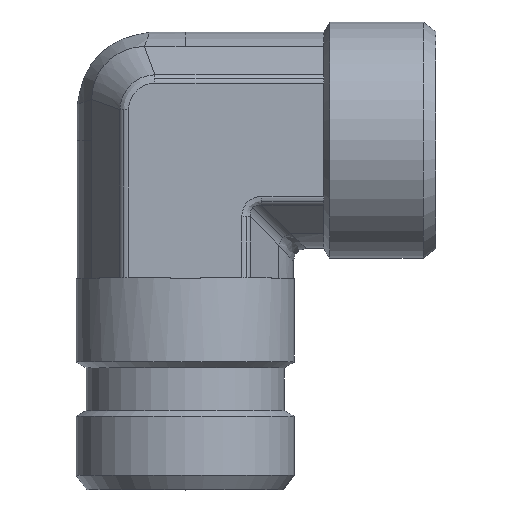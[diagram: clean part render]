
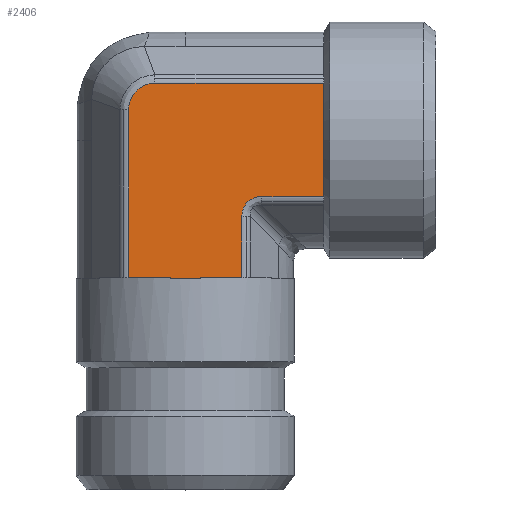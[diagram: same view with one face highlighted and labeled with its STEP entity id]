
A CAD part, top view. The second image highlights one B-rep face of the part: STEP entity #2406.
In plain terms, the highlighted planar face has unit normal (0, 0, 1) as drawn and (0, -1, 0) by its records, which use the part's own axes.
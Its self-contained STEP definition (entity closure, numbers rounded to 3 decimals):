
#361=CARTESIAN_POINT('',(7.119,-16.375,8.588));
#362=VERTEX_POINT('',#361);
#370=CARTESIAN_POINT('',(16.35,-16.375,8.588));
#371=VERTEX_POINT('',#370);
#372=CARTESIAN_POINT('',(7.119,-16.375,8.588));
#373=DIRECTION('',(1.0,0.0,0.0));
#374=VECTOR('',#373,9.231);
#375=LINE('',#372,#374);
#376=EDGE_CURVE('',#362,#371,#375,.T.);
#443=CARTESIAN_POINT('',(-13.088,-16.375,-4.612));
#444=VERTEX_POINT('',#443);
#452=CARTESIAN_POINT('',(-13.088,-16.375,21.0));
#453=VERTEX_POINT('',#452);
#454=CARTESIAN_POINT('',(-13.088,-16.375,-4.612));
#455=DIRECTION('',(0.0,0.0,1.0));
#456=VECTOR('',#455,25.612);
#457=LINE('',#454,#456);
#458=EDGE_CURVE('',#444,#453,#457,.T.);
#845=CARTESIAN_POINT('',(16.35,-16.375,2.295));
#846=VERTEX_POINT('',#845);
#854=CARTESIAN_POINT('',(16.5,-16.375,2.295));
#855=VERTEX_POINT('',#854);
#856=CARTESIAN_POINT('',(16.5,-16.375,2.295));
#857=DIRECTION('',(-1.0,0.0,0.));
#858=VECTOR('',#857,0.15);
#859=LINE('',#856,#858);
#860=EDGE_CURVE('',#855,#846,#859,.T.);
#862=CARTESIAN_POINT('',(16.5,-16.375,-2.295));
#863=VERTEX_POINT('',#862);
#871=CARTESIAN_POINT('',(16.35,-16.375,-2.295));
#872=VERTEX_POINT('',#871);
#873=CARTESIAN_POINT('',(16.35,-16.375,-2.295));
#874=DIRECTION('',(1.0,0.0,0.));
#875=VECTOR('',#874,0.15);
#876=LINE('',#873,#875);
#877=EDGE_CURVE('',#872,#863,#876,.T.);
#1674=CARTESIAN_POINT('',(-4.5,-16.375,21.0));
#1675=VERTEX_POINT('',#1674);
#1676=CARTESIAN_POINT('',(-4.5,-16.375,21.0));
#1677=DIRECTION('',(-1.0,0.0,0.0));
#1678=VECTOR('',#1677,8.588);
#1679=LINE('',#1676,#1678);
#1680=EDGE_CURVE('',#1675,#453,#1679,.T.);
#2098=CARTESIAN_POINT('',(16.35,-16.375,-8.588));
#2099=VERTEX_POINT('',#2098);
#2100=CARTESIAN_POINT('',(16.35,-16.375,-8.588));
#2101=DIRECTION('',(0.0,0.0,1.0));
#2102=VECTOR('',#2101,6.293);
#2103=LINE('',#2100,#2102);
#2104=EDGE_CURVE('',#2099,#872,#2103,.T.);
#2138=CARTESIAN_POINT('',(16.35,-16.375,2.295));
#2139=DIRECTION('',(0.0,0.0,1.0));
#2140=VECTOR('',#2139,6.293);
#2141=LINE('',#2138,#2140);
#2142=EDGE_CURVE('',#846,#371,#2141,.T.);
#2331=CARTESIAN_POINT('',(-9.112,-16.375,-8.588));
#2332=VERTEX_POINT('',#2331);
#2333=CARTESIAN_POINT('',(16.35,-16.375,-8.588));
#2334=DIRECTION('',(-1.0,0.0,0.0));
#2335=VECTOR('',#2334,25.462);
#2336=LINE('',#2333,#2335);
#2337=EDGE_CURVE('',#2099,#2332,#2336,.T.);
#2349=CARTESIAN_POINT('',(-4.5,-16.375,-3.175));
#2350=DIRECTION('',(0.0,-1.0,0.0));
#2351=DIRECTION('',(0.0,0.0,-1.0));
#2352=AXIS2_PLACEMENT_3D('',#2349,#2350,#2351);
#2353=PLANE('',#2352);
#2354=ORIENTED_EDGE('',*,*,#2104,.T.);
#2355=ORIENTED_EDGE('',*,*,#877,.T.);
#2356=CARTESIAN_POINT('',(16.5,-16.375,-2.295));
#2357=DIRECTION('',(0.0,0.0,1.0));
#2358=VECTOR('',#2357,4.589);
#2359=LINE('',#2356,#2358);
#2360=EDGE_CURVE('',#863,#855,#2359,.T.);
#2361=ORIENTED_EDGE('',*,*,#2360,.T.);
#2362=ORIENTED_EDGE('',*,*,#860,.T.);
#2363=ORIENTED_EDGE('',*,*,#2142,.T.);
#2364=ORIENTED_EDGE('',*,*,#376,.F.);
#2365=CARTESIAN_POINT('',(4.088,-16.375,11.619));
#2366=VERTEX_POINT('',#2365);
#2367=CARTESIAN_POINT('',(8.13,-16.375,12.63));
#2368=DIRECTION('',(0.,-1.0,0.));
#2369=DIRECTION('',(-0.707,0.,-0.707));
#2370=AXIS2_PLACEMENT_3D('',#2367,#2368,#2369);
#2371=ELLIPSE('',#2370,4.518,3.5);
#2372=EDGE_CURVE('',#2366,#362,#2371,.T.);
#2373=ORIENTED_EDGE('',*,*,#2372,.F.);
#2374=CARTESIAN_POINT('',(4.088,-16.375,21.0));
#2375=VERTEX_POINT('',#2374);
#2376=CARTESIAN_POINT('',(4.088,-16.375,21.0));
#2377=DIRECTION('',(0.0,0.0,-1.0));
#2378=VECTOR('',#2377,9.381);
#2379=LINE('',#2376,#2378);
#2380=EDGE_CURVE('',#2375,#2366,#2379,.T.);
#2381=ORIENTED_EDGE('',*,*,#2380,.F.);
#2382=CARTESIAN_POINT('',(4.088,-16.375,21.0));
#2383=DIRECTION('',(-1.0,0.0,0.0));
#2384=VECTOR('',#2383,8.588);
#2385=LINE('',#2382,#2384);
#2386=EDGE_CURVE('',#2375,#1675,#2385,.T.);
#2387=ORIENTED_EDGE('',*,*,#2386,.T.);
#2388=ORIENTED_EDGE('',*,*,#1680,.T.);
#2389=ORIENTED_EDGE('',*,*,#458,.F.);
#2390=CARTESIAN_POINT('',(-13.088,-16.375,-4.612));
#2391=CARTESIAN_POINT('',(-13.088,-16.375,-4.871));
#2392=CARTESIAN_POINT('',(-13.062,-16.375,-5.132));
#2393=CARTESIAN_POINT('',(-12.929,-16.375,-5.798));
#2394=CARTESIAN_POINT('',(-12.783,-16.375,-6.191));
#2395=CARTESIAN_POINT('',(-12.251,-16.375,-7.137));
#2396=CARTESIAN_POINT('',(-11.777,-16.375,-7.633));
#2397=CARTESIAN_POINT('',(-10.581,-16.375,-8.379));
#2398=CARTESIAN_POINT('',(-9.847,-16.375,-8.588));
#2399=CARTESIAN_POINT('',(-9.112,-16.375,-8.588));
#2400=B_SPLINE_CURVE_WITH_KNOTS('',3,(#2390,#2391,#2392,#2393,#2394,#2395,#2396,#2397,#2398,#2399),.UNSPECIFIED.,.F.,.U.,(4,2,2,2,4),(-6.21,-5.434,-4.192,-2.205,0.0),.UNSPECIFIED.);
#2401=EDGE_CURVE('',#2332,#444,#2400,.F.);
#2402=ORIENTED_EDGE('',*,*,#2401,.F.);
#2403=ORIENTED_EDGE('',*,*,#2337,.F.);
#2404=EDGE_LOOP('',(#2354,#2355,#2361,#2362,#2363,#2364,#2373,#2381,#2387,#2388,#2389,#2402,#2403));
#2405=FACE_OUTER_BOUND('',#2404,.T.);
#2406=ADVANCED_FACE('',(#2405),#2353,.T.);
